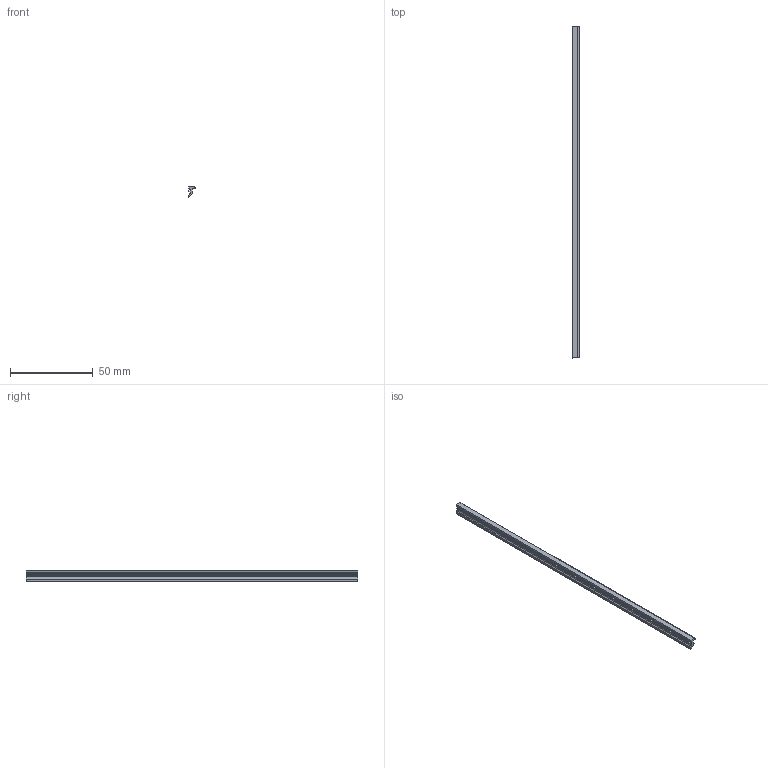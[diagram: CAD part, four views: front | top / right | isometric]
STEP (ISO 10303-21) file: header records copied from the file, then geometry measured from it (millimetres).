
FILE_DESCRIPTION(('STEP AP214'),'1');
FILE_NAME('RP2S.stp','2016-12-09T02:54:59',(' '),(' '),'Spatial InterOp 3D',' ',' ');
FILE_SCHEMA(('automotive_design'));
Length unit declared in the file: millimetre
Products named in the file (1): RP2S
Bounding box: 4.2 x 200 x 6.82 mm (x, y, z)
Volume: 2530.7 mm3; surface area: 4656.9 mm2
Topology: 1 solids, 1 shells, 19 faces, 51 edges, 34 vertices
Faces by surface type: plane 15, cylinder 4
Entity records: 761 total; most frequent: CARTESIAN_POINT 105, ORIENTED_EDGE 102, DIRECTION 99, EDGE_CURVE 51, LINE 43, VECTOR 43, VERTEX_POINT 34, AXIS2_PLACEMENT_3D 28
